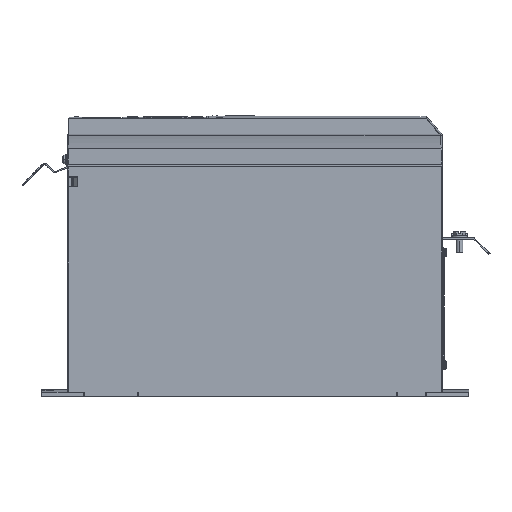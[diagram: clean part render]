
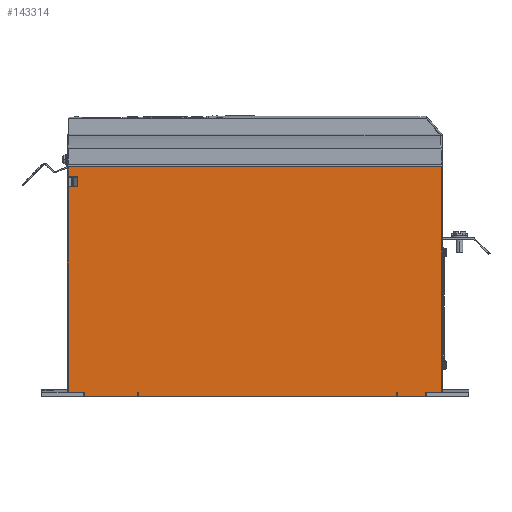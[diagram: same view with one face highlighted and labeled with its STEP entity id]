
A CAD part, left-side view. The second image highlights one B-rep face of the part: STEP entity #143314.
In plain terms, the highlighted planar face has unit normal (-1, 0, 0).
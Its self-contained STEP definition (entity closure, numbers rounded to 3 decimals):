
#52903=DIRECTION('',(0.,1.,0.));
#52904=VECTOR('',#52903,8.146);
#52905=CARTESIAN_POINT('',(-82.5,166.604,205.45));
#52906=LINE('',#52905,#52904);
#52910=DIRECTION('',(0.,0.,1.));
#52911=VECTOR('',#52910,9.2);
#52912=CARTESIAN_POINT('',(-82.5,174.75,205.45));
#52913=LINE('',#52912,#52911);
#52917=DIRECTION('',(0.,1.,0.));
#52918=VECTOR('',#52917,349.25);
#52919=CARTESIAN_POINT('',(-82.5,-174.5,214.65));
#52920=LINE('',#52919,#52918);
#52924=DIRECTION('',(0.,0.,-1.));
#52925=VECTOR('',#52924,210.882);
#52926=CARTESIAN_POINT('',(-82.5,-174.5,214.65));
#52927=LINE('',#52926,#52925);
#52931=DIRECTION('',(0.,1.,0.));
#52932=VECTOR('',#52931,14.95);
#52933=CARTESIAN_POINT('',(-82.5,-174.5,3.768));
#52934=LINE('',#52933,#52932);
#52938=DIRECTION('',(0.,0.,1.));
#52939=VECTOR('',#52938,3.768);
#52940=CARTESIAN_POINT('',(-82.5,-132.589,0.));
#52941=LINE('',#52940,#52939);
#52945=DIRECTION('',(0.,1.,0.));
#52946=VECTOR('',#52945,0.5);
#52947=CARTESIAN_POINT('',(-82.5,-132.589,3.768));
#52948=LINE('',#52947,#52946);
#52952=DIRECTION('',(0.,0.,-1.));
#52953=VECTOR('',#52952,3.775);
#52954=CARTESIAN_POINT('',(-82.5,-132.089,3.768));
#52955=LINE('',#52954,#52953);
#52959=DIRECTION('',(0.,1.,0.));
#52960=VECTOR('',#52959,241.178);
#52961=CARTESIAN_POINT('',(-82.5,-132.089,-0.007));
#52962=LINE('',#52961,#52960);
#52966=DIRECTION('',(0.,0.,1.));
#52967=VECTOR('',#52966,3.775);
#52968=CARTESIAN_POINT('',(-82.5,109.089,-0.007));
#52969=LINE('',#52968,#52967);
#52973=DIRECTION('',(0.,1.,0.));
#52974=VECTOR('',#52973,0.5);
#52975=CARTESIAN_POINT('',(-82.5,109.089,3.768));
#52976=LINE('',#52975,#52974);
#52980=DIRECTION('',(0.,0.,1.));
#52981=VECTOR('',#52980,3.768);
#52982=CARTESIAN_POINT('',(-82.5,109.589,0.));
#52983=LINE('',#52982,#52981);
#52987=DIRECTION('',(0.,1.,0.));
#52988=VECTOR('',#52987,15.594);
#52989=CARTESIAN_POINT('',(-82.5,159.156,3.768));
#52990=LINE('',#52989,#52988);
#52994=DIRECTION('',(0.,0.,1.));
#52995=VECTOR('',#52994,192.182);
#52996=CARTESIAN_POINT('',(-82.5,174.75,3.768));
#52997=LINE('',#52996,#52995);
#53001=DIRECTION('',(0.,1.,0.));
#53002=VECTOR('',#53001,8.854);
#53003=CARTESIAN_POINT('',(-82.5,165.896,195.95));
#53004=LINE('',#53003,#53002);
#53008=DIRECTION('',(0.,0.,-1.));
#53009=VECTOR('',#53008,9.);
#53010=CARTESIAN_POINT('',(-82.5,165.896,
204.95));
#53011=LINE('',#53010,#53009);
#53015=CARTESIAN_POINT('',(-82.5,165.896,
204.95));
#53016=CARTESIAN_POINT('',(-82.5,165.896,
204.967));
#53017=CARTESIAN_POINT('',(-82.5,165.899,
205.001));
#53018=CARTESIAN_POINT('',(-82.5,165.911,
205.055));
#53019=CARTESIAN_POINT('',(-82.5,165.933,
205.112));
#53020=CARTESIAN_POINT('',(-82.5,165.966,
205.17));
#53021=CARTESIAN_POINT('',(-82.5,166.014,
205.229));
#53022=CARTESIAN_POINT('',(-82.5,166.075,
205.285));
#53023=CARTESIAN_POINT('',(-82.5,166.152,
205.337));
#53024=CARTESIAN_POINT('',(-82.5,166.244,
205.383));
#53025=CARTESIAN_POINT('',(-82.5,166.352,
205.42));
#53026=CARTESIAN_POINT('',(-82.5,166.473,
205.444));
#53027=CARTESIAN_POINT('',(-82.5,166.559,
205.45));
#53028=CARTESIAN_POINT('',(-82.5,166.604,205.45));
#53433=CARTESIAN_POINT('',(-82.5,-174.5,3.768));
#53459=CARTESIAN_POINT('',(-82.5,174.75,3.768));
#55611=DIRECTION('',(0.,-1.,0.));
#55612=VECTOR('',#55611,26.961);
#55613=CARTESIAN_POINT('',(-82.5,-132.589,0.));
#55614=LINE('',#55613,#55612);
#55661=DIRECTION('',(0.,0.,1.));
#55662=VECTOR('',#55661,3.768);
#55663=CARTESIAN_POINT('',(-82.5,-159.55,0.));
#55664=LINE('',#55663,#55662);
#56372=DIRECTION('',(0.,0.,1.));
#56373=VECTOR('',#56372,3.768);
#56374=CARTESIAN_POINT('',(-82.5,159.156,0.));
#56375=LINE('',#56374,#56373);
#56415=DIRECTION('',(0.,-1.,0.));
#56416=VECTOR('',#56415,49.567);
#56417=CARTESIAN_POINT('',(-82.5,159.156,0.));
#56418=LINE('',#56417,#56416);
#68197=CARTESIAN_POINT('',(-82.5,-132.089,-0.007));
#68198=CARTESIAN_POINT('',(-82.5,109.089,-0.007));
#68199=VERTEX_POINT('',#68197);
#68200=VERTEX_POINT('',#68198);
#68206=CARTESIAN_POINT('',(-82.5,109.089,3.768));
#68208=VERTEX_POINT('',#68206);
#68210=CARTESIAN_POINT('',(-82.5,-132.089,3.768));
#68212=VERTEX_POINT('',#68210);
#68219=CARTESIAN_POINT('',(-82.5,-132.589,0.));
#68220=VERTEX_POINT('',#68219);
#68221=CARTESIAN_POINT('',(-82.5,-159.55,0.));
#68222=VERTEX_POINT('',#68221);
#68245=CARTESIAN_POINT('',(-82.5,-132.589,3.768));
#68246=VERTEX_POINT('',#68245);
#68247=CARTESIAN_POINT('',(-82.5,-159.55,3.768));
#68249=VERTEX_POINT('',#68247);
#68294=VERTEX_POINT('',#53433);
#68301=CARTESIAN_POINT('',(-82.5,109.589,0.));
#68302=VERTEX_POINT('',#68301);
#68303=CARTESIAN_POINT('',(-82.5,159.156,0.));
#68304=VERTEX_POINT('',#68303);
#68327=CARTESIAN_POINT('',(-82.5,109.589,3.768));
#68328=VERTEX_POINT('',#68327);
#68329=CARTESIAN_POINT('',(-82.5,159.156,3.768));
#68331=VERTEX_POINT('',#68329);
#68654=CARTESIAN_POINT('',(-82.5,-174.5,214.65));
#68656=VERTEX_POINT('',#68654);
#69345=CARTESIAN_POINT('',(-82.5,174.75,214.65));
#69346=VERTEX_POINT('',#69345);
#69347=VERTEX_POINT('',#53459);
#69386=CARTESIAN_POINT('',(-82.5,166.604,205.45));
#69387=CARTESIAN_POINT('',(-82.5,174.75,205.45));
#69388=VERTEX_POINT('',#69386);
#69389=VERTEX_POINT('',#69387);
#69441=VERTEX_POINT('',#53015);
#69445=CARTESIAN_POINT('',(-82.5,165.896,195.95));
#69446=VERTEX_POINT('',#69445);
#69700=CARTESIAN_POINT('',(-82.5,174.75,195.95));
#69702=VERTEX_POINT('',#69700);
#143265=CARTESIAN_POINT('',(-82.5,-175.,3.768));
#143266=DIRECTION('',(-1.,0.,0.));
#143267=DIRECTION('',(0.,0.,1.));
#143268=AXIS2_PLACEMENT_3D('',#143265,#143266,#143267);
#143269=PLANE('',#143268);
#143271=ORIENTED_EDGE('',*,*,#143270,.T.);
#143273=ORIENTED_EDGE('',*,*,#143272,.T.);
#143275=ORIENTED_EDGE('',*,*,#143274,.F.);
#143277=ORIENTED_EDGE('',*,*,#143276,.T.);
#143279=ORIENTED_EDGE('',*,*,#143278,.T.);
#143281=ORIENTED_EDGE('',*,*,#143280,.F.);
#143283=ORIENTED_EDGE('',*,*,#143282,.F.);
#143285=ORIENTED_EDGE('',*,*,#143284,.T.);
#143287=ORIENTED_EDGE('',*,*,#143286,.T.);
#143289=ORIENTED_EDGE('',*,*,#143288,.T.);
#143291=ORIENTED_EDGE('',*,*,#143290,.T.);
#143293=ORIENTED_EDGE('',*,*,#143292,.T.);
#143295=ORIENTED_EDGE('',*,*,#143294,.T.);
#143297=ORIENTED_EDGE('',*,*,#143296,.F.);
#143299=ORIENTED_EDGE('',*,*,#143298,.F.);
#143301=ORIENTED_EDGE('',*,*,#143300,.T.);
#143303=ORIENTED_EDGE('',*,*,#143302,.T.);
#143305=ORIENTED_EDGE('',*,*,#143304,.T.);
#143307=ORIENTED_EDGE('',*,*,#143306,.F.);
#143309=ORIENTED_EDGE('',*,*,#143308,.F.);
#143311=ORIENTED_EDGE('',*,*,#143310,.T.);
#143312=EDGE_LOOP('',(#143271,#143273,#143275,#143277,#143279,#143281,#143283,
#143285,#143287,#143289,#143291,#143293,#143295,#143297,#143299,#143301,#143303,
#143305,#143307,#143309,#143311));
#143313=FACE_OUTER_BOUND('',#143312,.F.);
#143314=ADVANCED_FACE('',(#143313),#143269,.T.);
#53029=B_SPLINE_CURVE_WITH_KNOTS('',3,(#53015,#53016,#53017,#53018,#53019,
#53020,#53021,#53022,#53023,#53024,#53025,#53026,#53027,#53028),.UNSPECIFIED.,
.F.,.F.,(4,1,1,1,1,1,1,1,1,1,1,4),(0.,0.091,0.182,
0.273,0.364,0.455,0.545,
0.636,0.727,0.818,0.909,1.),
.UNSPECIFIED.);
#143270=EDGE_CURVE('',#69388,#69389,#52906,.T.);
#143272=EDGE_CURVE('',#69389,#69346,#52913,.T.);
#143274=EDGE_CURVE('',#68656,#69346,#52920,.T.);
#143276=EDGE_CURVE('',#68656,#68294,#52927,.T.);
#143278=EDGE_CURVE('',#68294,#68249,#52934,.T.);
#143280=EDGE_CURVE('',#68222,#68249,#55664,.T.);
#143282=EDGE_CURVE('',#68220,#68222,#55614,.T.);
#143284=EDGE_CURVE('',#68220,#68246,#52941,.T.);
#143286=EDGE_CURVE('',#68246,#68212,#52948,.T.);
#143288=EDGE_CURVE('',#68212,#68199,#52955,.T.);
#143290=EDGE_CURVE('',#68199,#68200,#52962,.T.);
#143292=EDGE_CURVE('',#68200,#68208,#52969,.T.);
#143294=EDGE_CURVE('',#68208,#68328,#52976,.T.);
#143296=EDGE_CURVE('',#68302,#68328,#52983,.T.);
#143298=EDGE_CURVE('',#68304,#68302,#56418,.T.);
#143300=EDGE_CURVE('',#68304,#68331,#56375,.T.);
#143302=EDGE_CURVE('',#68331,#69347,#52990,.T.);
#143304=EDGE_CURVE('',#69347,#69702,#52997,.T.);
#143306=EDGE_CURVE('',#69446,#69702,#53004,.T.);
#143308=EDGE_CURVE('',#69441,#69446,#53011,.T.);
#143310=EDGE_CURVE('',#69441,#69388,#53029,.T.);
